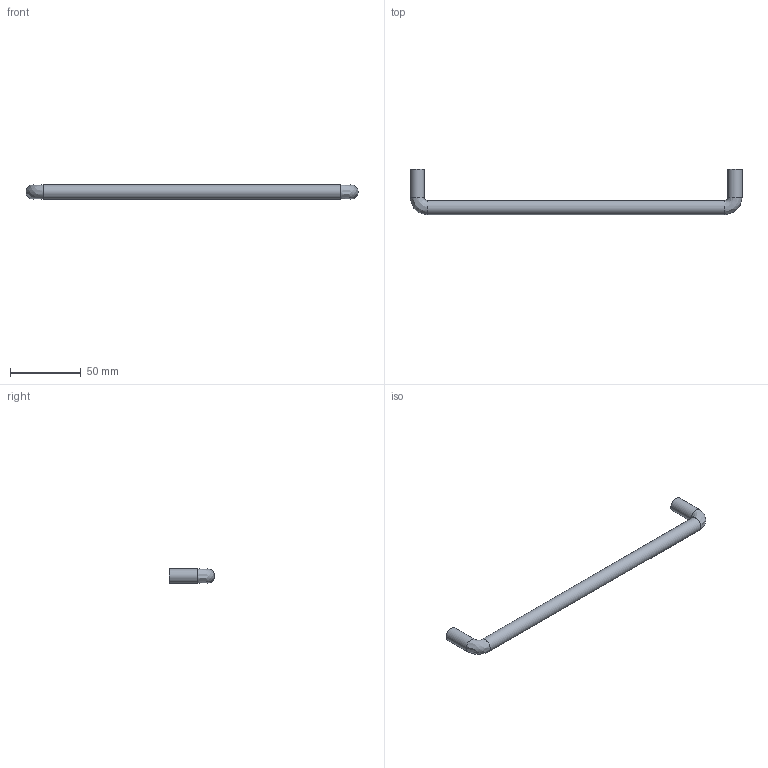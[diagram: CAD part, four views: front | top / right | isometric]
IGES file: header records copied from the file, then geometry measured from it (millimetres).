
Start section: Data from Parasolid IGES Translator 15.0.47, Copyright(c) 2006 Siemens P LM Software. All Rights Reserved.
Global section: file name: 9069821.igs; native system:  By UGS Corp.; preprocessor: XPlus GENERIC/IGES 3.0; author: Noname; organization: Noname; date: 20140122.155425; units: millimetre
Bounding box: 234 x 32 x 10 mm (x, y, z)
Surface area: 8953.3 mm2 (no closed solid volume)
Topology: 0 solids, 0 shells, 11 faces, 42 edges, 38 vertices
Faces by surface type: revolution 7, extrusion 4
